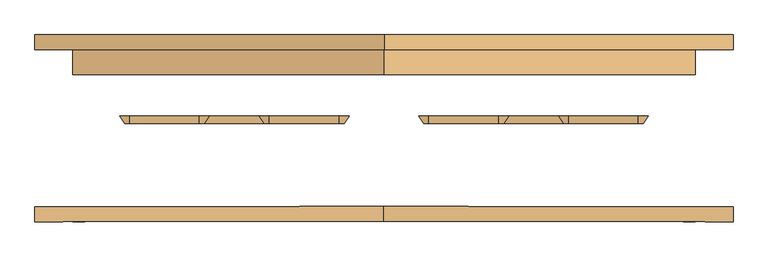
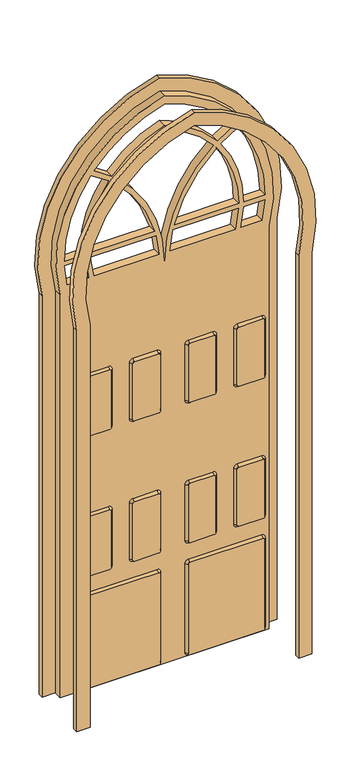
"""IFC4 building model written with IfcOpenShell, lengths in millimetres: door geometry, ETC Arabic Door : ETC Arabic Door."""

from ifc_helpers import new_model, si_unit, point, frame, frame_2d, origin, place, context, project, spatial, polyline, circle_curve, trimmed, segment, composite_curve, outline, extrude, source, transform, mapped, element, save
from ifc_brep_helpers import plane_surface, revolved_surface, advanced_brep


def door_c471d53b(model_context):
    return source(origin(), model_context, "Body", "SolidModel", [
        extrude(outline(composite_curve([segment(trimmed(circle_curve(frame_2d((2645.91897, 194.3801824)), 820.0), [point((3442.5470794, 0.0))], [point((2442.5470794, -600.0))], False, "CARTESIAN"), True, "CONTINUOUS"), segment(polyline([(2442.5470794, -600.0), (0.0, -600.0), (0.0, 600.0), (2442.5470794, 600.0)]), True, "CONTINUOUS"), segment(trimmed(circle_curve(frame_2d((2645.91897, -194.3801824)), 820.0), [point((2442.5470794, 600.0))], [point((3442.5470794, 0.0))], False, "CARTESIAN"), True, "CONTINUOUS")], self_intersect=False), holes=[composite_curve([segment(polyline([(2642.5470794, -455.6110717), (2642.5470794, -575.6124347)]), True, "CONTINUOUS"), segment(trimmed(circle_curve(frame_2d((2645.91897, 194.3801824)), 770.0), [point((2642.5470794, -575.6124347))], [point((3105.3836285, -423.5131964))], True, "CARTESIAN"), True, "CONTINUOUS"), segment(trimmed(circle_curve(frame_2d((2442.5470794, -785.0)), 755.0), [point((3105.3836285, -423.5131964))], [point((3039.5787259, -322.8547706))], True, "CARTESIAN"), True, "CONTINUOUS"), segment(trimmed(circle_curve(frame_2d((2645.91897, 194.3801824)), 650.0), [point((3039.5787259, -322.8547706))], [point((2642.5470794, -455.6110717))], False, "CARTESIAN"), True, "CONTINUOUS")], self_intersect=False), composite_curve([segment(trimmed(circle_curve(frame_2d((2442.5470794, -785.0)), 785.0), [point((3063.0279289, -304.1377375))], [point((3129.3939556, -404.9126829))], False, "CARTESIAN"), True, "CONTINUOUS"), segment(trimmed(circle_curve(frame_2d((2645.91897, 194.3801824)), 770.0), [point((3129.3939556, -404.9126829))], [point((3390.9802727, 0.0))], True, "CARTESIAN"), True, "CONTINUOUS"), segment(trimmed(circle_curve(frame_2d((2645.91897, -194.3801824)), 770.0), [point((3390.9802727, 0.0))], [point((3129.3939556, 404.9126829))], True, "CARTESIAN"), True, "CONTINUOUS"), segment(trimmed(circle_curve(frame_2d((2442.5470794, 785.0)), 785.0), [point((3129.3939556, 404.9126829))], [point((3063.0279289, 304.1377375))], False, "CARTESIAN"), True, "CONTINUOUS"), segment(trimmed(circle_curve(frame_2d((2645.91897, -194.3801824)), 650.0), [point((3063.0279289, 304.1377375))], [point((3266.1740342, 0.0))], False, "CARTESIAN"), True, "CONTINUOUS"), segment(trimmed(circle_curve(frame_2d((2645.91897, 194.3801824)), 650.0), [point((3266.1740342, 0.0))], [point((3063.0279289, -304.1377375))], False, "CARTESIAN"), True, "CONTINUOUS")], self_intersect=False), composite_curve([segment(polyline([(2612.5255477, -424.7117777), (2612.5255477, -49.3906867)]), True, "CONTINUOUS"), segment(trimmed(circle_curve(frame_2d((2442.5150435, -784.9999625)), 754.9997206), [point((2612.5255477, -49.3906867))], [point((2492.4716052, -31.6548091))], True, "CARTESIAN"), True, "CONTINUOUS"), segment(polyline([(2492.4716052, -31.6548091), (2492.4716052, -406.3292983)]), True, "CONTINUOUS"), segment(trimmed(circle_curve(frame_2d((2645.8872017, 194.3902565)), 620.0002651), [point((2492.4716052, -406.3292983))], [point((2612.5255477, -424.7117777))], True, "CARTESIAN"), True, "CONTINUOUS")], self_intersect=False), composite_curve([segment(polyline([(2642.5470794, -56.9718412), (2642.5470794, -425.6106485)]), True, "CONTINUOUS"), segment(trimmed(circle_curve(frame_2d((2645.91897, 194.3801824)), 620.0), [point((2642.5470794, -425.6106485))], [point((3020.7396834, -299.4916966))], True, "CARTESIAN"), True, "CONTINUOUS"), segment(trimmed(circle_curve(frame_2d((2442.5470794, -785.0)), 755.0), [point((3020.7396834, -299.4916966))], [point((2642.5470794, -56.9718412))], True, "CARTESIAN"), True, "CONTINUOUS")], self_intersect=False), composite_curve([segment(trimmed(circle_curve(frame_2d((2645.91897, 194.3801824)), 770.0), [point((2492.5470794, -560.1905984))], [point((2612.5470794, -574.8963069))], True, "CARTESIAN"), True, "CONTINUOUS"), segment(polyline([(2612.5470794, -574.8963069), (2612.5470794, -454.7625731)]), True, "CONTINUOUS"), segment(trimmed(circle_curve(frame_2d((2645.91897, 194.3801824)), 650.0), [point((2612.5470794, -454.7625731))], [point((2492.5470794, -437.2661294))], False, "CARTESIAN"), True, "CONTINUOUS"), segment(polyline([(2492.5470794, -437.2661294), (2492.5470794, -560.1905984)]), True, "CONTINUOUS")], self_intersect=False), composite_curve([segment(trimmed(circle_curve(frame_2d((2442.5470794, -785.0)), 785.0), [point((2442.5470794, 0.0))], [point((3044.2835155, -280.8787234))], False, "CARTESIAN"), True, "CONTINUOUS"), segment(trimmed(circle_curve(frame_2d((2646.0797802, 194.3398905)), 619.9991498), [point((3044.2835155, -280.8787234))], [point((3234.8335086, 0.0))], True, "CARTESIAN"), True, "CONTINUOUS"), segment(trimmed(circle_curve(frame_2d((2646.0797802, -194.3398905)), 619.9991498), [point((3234.8335086, 0.0))], [point((3044.2835155, 280.8787234))], True, "CARTESIAN"), True, "CONTINUOUS"), segment(trimmed(circle_curve(frame_2d((2442.5470794, 785.0)), 785.0), [point((3044.2835155, 280.8787234))], [point((2442.5470794, 0.0))], False, "CARTESIAN"), True, "CONTINUOUS")], self_intersect=False), composite_curve([segment(trimmed(circle_curve(frame_2d((2645.91897, -194.3801824)), 770.0), [point((3105.3836285, 423.5131964))], [point((2642.5470794, 575.6124347))], True, "CARTESIAN"), True, "CONTINUOUS"), segment(polyline([(2642.5470794, 575.6124347), (2642.5470794, 455.6110717)]), True, "CONTINUOUS"), segment(trimmed(circle_curve(frame_2d((2645.91897, -194.3801824)), 650.0), [point((2642.5470794, 455.6110717))], [point((3039.5787259, 322.8547706))], False, "CARTESIAN"), True, "CONTINUOUS"), segment(trimmed(circle_curve(frame_2d((2442.5470794, 785.0)), 755.0), [point((3039.5787259, 322.8547706))], [point((3105.3836285, 423.5131964))], True, "CARTESIAN"), True, "CONTINUOUS")], self_intersect=False), composite_curve([segment(trimmed(circle_curve(frame_2d((2442.5150435, 784.9999625)), 754.9997206), [point((2492.4716052, 31.6548091))], [point((2612.5255477, 49.3906867))], True, "CARTESIAN"), True, "CONTINUOUS"), segment(polyline([(2612.5255477, 49.3906867), (2612.5255477, 424.7117777)]), True, "CONTINUOUS"), segment(trimmed(circle_curve(frame_2d((2645.8872017, -194.3902565)), 620.0002651), [point((2612.5255477, 424.7117777))], [point((2492.4716052, 406.3292983))], True, "CARTESIAN"), True, "CONTINUOUS"), segment(polyline([(2492.4716052, 406.3292983), (2492.4716052, 31.6548091)]), True, "CONTINUOUS")], self_intersect=False), composite_curve([segment(trimmed(circle_curve(frame_2d((2645.91897, -194.3801824)), 620.0), [point((3020.7396834, 299.4916966))], [point((2642.5470794, 425.6106485))], True, "CARTESIAN"), True, "CONTINUOUS"), segment(polyline([(2642.5470794, 425.6106485), (2642.5470794, 56.9718412)]), True, "CONTINUOUS"), segment(trimmed(circle_curve(frame_2d((2442.5470794, 785.0)), 755.0), [point((2642.5470794, 56.9718412))], [point((3020.7396834, 299.4916966))], True, "CARTESIAN"), True, "CONTINUOUS")], self_intersect=False), composite_curve([segment(polyline([(2612.5470794, 454.7625731), (2612.5470794, 574.8963069)]), True, "CONTINUOUS"), segment(trimmed(circle_curve(frame_2d((2645.91897, -194.3801824)), 770.0), [point((2612.5470794, 574.8963069))], [point((2492.5470794, 560.1905984))], True, "CARTESIAN"), True, "CONTINUOUS"), segment(polyline([(2492.5470794, 560.1905984), (2492.5470794, 437.2661294)]), True, "CONTINUOUS"), segment(trimmed(circle_curve(frame_2d((2645.91897, -194.3801824)), 650.0), [point((2492.5470794, 437.2661294))], [point((2612.5470794, 454.7625731))], False, "CARTESIAN"), True, "CONTINUOUS")], self_intersect=False)]), frame((0.0, 107.5, 0.0), z_axis=(0.0, 1.0, 0.0), x_axis=(0.0, 0.0, 1.0)), (0.0, 0.0, 1.0), 50.0),
        extrude(outline(composite_curve([segment(trimmed(circle_curve(frame_2d((2645.91897, -194.3801824)), 895.0), [point((2433.3087668, 675.0))], [point((3519.5558195, 0.0))], False, "CARTESIAN"), True, "CONTINUOUS"), segment(trimmed(circle_curve(frame_2d((2645.91897, 194.3801824)), 895.0), [point((3519.5558195, 0.0))], [point((2433.3087668, -675.0))], False, "CARTESIAN"), True, "CONTINUOUS"), segment(polyline([(2433.3087668, -675.0), (0.0, -675.0), (0.0, -600.0), (2442.5470794, -600.0)]), True, "CONTINUOUS"), segment(trimmed(circle_curve(frame_2d((2645.91897, 194.3801824)), 820.0), [point((2442.5470794, -600.0))], [point((3442.5470794, 0.0))], True, "CARTESIAN"), True, "CONTINUOUS"), segment(trimmed(circle_curve(frame_2d((2645.91897, -194.3801824)), 820.0), [point((3442.5470794, 0.0))], [point((2442.5470794, 600.0))], True, "CARTESIAN"), True, "CONTINUOUS"), segment(polyline([(2442.5470794, 600.0), (0.0, 600.0), (0.0, 675.0), (2433.3087668, 675.0)]), True, "CONTINUOUS")], self_intersect=False)), frame((0.0, 157.5, 0.0), z_axis=(0.0, 1.0, 0.0), x_axis=(0.0, 0.0, 1.0)), (0.0, 0.0, 1.0), 30.0),
        extrude(outline(composite_curve([segment(polyline([(2433.3087668, -675.0), (0.0, -675.0), (0.0, -600.0), (2442.5470794, -600.0)]), True, "CONTINUOUS"), segment(trimmed(circle_curve(frame_2d((2645.91897, 194.3801824)), 820.0), [point((2442.5470794, -600.0))], [point((3442.5470794, 0.0))], True, "CARTESIAN"), True, "CONTINUOUS"), segment(trimmed(circle_curve(frame_2d((2645.91897, -194.3801824)), 820.0), [point((3442.5470794, 0.0))], [point((2442.5470794, 600.0))], True, "CARTESIAN"), True, "CONTINUOUS"), segment(polyline([(2442.5470794, 600.0), (0.0, 600.0), (0.0, 675.0), (2433.3087668, 675.0)]), True, "CONTINUOUS"), segment(trimmed(circle_curve(frame_2d((2645.91897, -194.3801824)), 895.0), [point((2433.3087668, 675.0))], [point((3519.5558195, 0.0))], False, "CARTESIAN"), True, "CONTINUOUS"), segment(trimmed(circle_curve(frame_2d((2645.91897, 194.3801824)), 895.0), [point((3519.5558195, 0.0))], [point((2433.3087668, -675.0))], False, "CARTESIAN"), True, "CONTINUOUS")], self_intersect=False)), frame((0.0, -187.5, 0.0), z_axis=(0.0, 1.0, 0.0), x_axis=(0.0, 0.0, 1.0)), (0.0, 0.0, 1.0), 30.0),
        advanced_brep(
        [(-90.0, 10.0, 1610.0), (-80.0, 10.0, 1620.0), (-80.0, 10.0, 1960.0), (-90.0, 10.0, 1970.0), (-230.0, 10.0, 1970.0), (-240.0, 10.0, 1960.0), (-240.0, 10.0, 1620.0), (-230.0, 10.0, 1610.0), (-90.0, 25.0, 1600.0), (-230.0, 25.0, 1600.0), (-250.0, 25.0, 1620.0), (-250.0, 25.0, 1960.0), (-230.0, 25.0, 1980.0), (-90.0, 25.0, 1980.0), (-70.0, 25.0, 1960.0), (-70.0, 25.0, 1620.0)],
        [
            (0, 1, circle_curve(frame((-90.0, 10.0, 1620.0), z_axis=(0.0, -1.0, 0.0), x_axis=(0.0, 0.0, -1.0)), 10.0)),
            (1, 2),
            (2, 3, circle_curve(frame((-90.0, 10.0, 1960.0), z_axis=(0.0, -1.0, 0.0), x_axis=(1.0, 0.0, 0.0)), 10.0)),
            (3, 4),
            (4, 5, circle_curve(frame((-230.0, 10.0, 1960.0), z_axis=(0.0, -1.0, 0.0), x_axis=(0.0, 0.0, 1.0)), 10.0)),
            (5, 6),
            (6, 7, circle_curve(frame((-230.0, 10.0, 1620.0), z_axis=(0.0, -1.0, 0.0), x_axis=(-1.0, 0.0, 0.0)), 10.0)),
            (7, 0),
            (8, 9),
            (9, 10, circle_curve(frame((-230.0, 25.0, 1620.0), z_axis=(0.0, 1.0, 0.0), x_axis=(-1.0, 0.0, 0.0)), 20.0)),
            (10, 11),
            (11, 12, circle_curve(frame((-230.0, 25.0, 1960.0), z_axis=(0.0, 1.0, 0.0), x_axis=(0.0, 0.0, 1.0)), 20.0)),
            (12, 13),
            (13, 14, circle_curve(frame((-90.0, 25.0, 1960.0), z_axis=(0.0, 1.0, 0.0), x_axis=(1.0, 0.0, 0.0)), 20.0)),
            (14, 15),
            (15, 8, circle_curve(frame((-90.0, 25.0, 1620.0), z_axis=(0.0, 1.0, 0.0), x_axis=(0.0, 0.0, -1.0)), 20.0)),
            (15, 1),
            (0, 8),
            (14, 2),
            (13, 3),
            (12, 4),
            (11, 5),
            (10, 6),
            (9, 7),
        ],
        [
            plane_surface(frame((-160.0, 10.0, 1790.0), z_axis=(0.0, -1.0, 0.0), x_axis=(-1.0, 0.0, 0.0))),
            plane_surface(frame((-160.0, 25.0, 1790.0), z_axis=(0.0, 1.0, 0.0), x_axis=(-1.0, 0.0, 0.0))),
            revolved_surface(polyline([(-90.0, 10.0, 1610.0), (-90.0, 25.0, 1600.0)]), (-90.0, -5.0, 1620.0), (0.0, 1.0, 0.0)),
            plane_surface(frame((-70.0, 25.0, 1790.0), z_axis=(0.8320502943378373, -0.5547001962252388, 0.0), x_axis=(0.0, 0.0, 1.0))),
            revolved_surface(polyline([(-80.0, 10.0, 1960.0), (-70.0, 25.0, 1960.0)]), (-90.0, -5.0, 1960.0), (0.0, 1.0, 0.0)),
            plane_surface(frame((-160.0, 25.0, 1980.0), z_axis=(0.0, -0.554700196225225, 0.8320502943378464), x_axis=(-1.0, 0.0, 0.0))),
            revolved_surface(polyline([(-230.0, 10.0, 1970.0), (-230.0, 25.0, 1980.0)]), (-230.0, -5.0, 1960.0), (0.0, 1.0, 0.0)),
            plane_surface(frame((-250.0, 25.0, 1790.0), z_axis=(-0.8320502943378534, -0.5547001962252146, 0.0), x_axis=(0.0, 0.0, -1.0))),
            revolved_surface(polyline([(-240.0, 10.0, 1620.0), (-250.0, 25.0, 1620.0)]), (-230.0, -5.0, 1620.0), (0.0, 1.0, 0.0)),
            plane_surface(frame((-160.0, 25.0, 1600.0), z_axis=(0.0, -0.554700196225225, -0.8320502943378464), x_axis=(1.0, 0.0, 0.0))),
        ],
        [
            (0, [[1, 2, 3, 4, 5, 6, 7, 8]]),
            (1, [[9, 10, 11, 12, 13, 14, 15, 16]]),
            (2, [[-16, 17, -1, 18]]),
            (3, [[-15, 19, -2, -17]]),
            (4, [[-14, 20, -3, -19]]),
            (5, [[-13, 21, -4, -20]]),
            (6, [[-12, 22, -5, -21]]),
            (7, [[-11, 23, -6, -22]]),
            (8, [[-10, 24, -7, -23]]),
            (9, [[-9, -18, -8, -24]]),
        ],
    ),
        advanced_brep(
        [(-370.0, 10.0, 1610.0), (-360.0, 10.0, 1620.0), (-360.0, 10.0, 1960.0), (-370.0, 10.0, 1970.0), (-510.0, 10.0, 1970.0), (-520.0, 10.0, 1960.0), (-520.0, 10.0, 1620.0), (-510.0, 10.0, 1610.0), (-370.0, 25.0, 1600.0), (-510.0, 25.0, 1600.0), (-530.0, 25.0, 1620.0), (-530.0, 25.0, 1960.0), (-510.0, 25.0, 1980.0), (-370.0, 25.0, 1980.0), (-350.0, 25.0, 1960.0), (-350.0, 25.0, 1620.0)],
        [
            (0, 1, circle_curve(frame((-370.0, 10.0, 1620.0), z_axis=(0.0, -1.0, 0.0), x_axis=(0.0, 0.0, -1.0)), 10.0)),
            (1, 2),
            (2, 3, circle_curve(frame((-370.0, 10.0, 1960.0), z_axis=(0.0, -1.0, 0.0), x_axis=(1.0, 0.0, 0.0)), 10.0)),
            (3, 4),
            (4, 5, circle_curve(frame((-510.0, 10.0, 1960.0), z_axis=(0.0, -1.0, 0.0), x_axis=(0.0, 0.0, 1.0)), 10.0)),
            (5, 6),
            (6, 7, circle_curve(frame((-510.0, 10.0, 1620.0), z_axis=(0.0, -1.0, 0.0), x_axis=(-1.0, 0.0, 0.0)), 10.0)),
            (7, 0),
            (8, 9),
            (9, 10, circle_curve(frame((-510.0, 25.0, 1620.0), z_axis=(0.0, 1.0, 0.0), x_axis=(-1.0, 0.0, 0.0)), 20.0)),
            (10, 11),
            (11, 12, circle_curve(frame((-510.0, 25.0, 1960.0), z_axis=(0.0, 1.0, 0.0), x_axis=(0.0, 0.0, 1.0)), 20.0)),
            (12, 13),
            (13, 14, circle_curve(frame((-370.0, 25.0, 1960.0), z_axis=(0.0, 1.0, 0.0), x_axis=(1.0, 0.0, 0.0)), 20.0)),
            (14, 15),
            (15, 8, circle_curve(frame((-370.0, 25.0, 1620.0), z_axis=(0.0, 1.0, 0.0), x_axis=(0.0, 0.0, -1.0)), 20.0)),
            (15, 1),
            (0, 8),
            (14, 2),
            (13, 3),
            (12, 4),
            (11, 5),
            (10, 6),
            (9, 7),
        ],
        [
            plane_surface(frame((-440.0, 10.0, 1790.0), z_axis=(0.0, -1.0, 0.0), x_axis=(-1.0, 0.0, 0.0))),
            plane_surface(frame((-440.0, 25.0, 1790.0), z_axis=(0.0, 1.0, 0.0), x_axis=(-1.0, 0.0, 0.0))),
            revolved_surface(polyline([(-370.0, 10.0, 1610.0), (-370.0, 25.0, 1600.0)]), (-370.0, -5.0, 1620.0), (0.0, 1.0, 0.0)),
            plane_surface(frame((-350.0, 25.0, 1790.0), z_axis=(0.8320502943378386, -0.5547001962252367, 0.0), x_axis=(0.0, 0.0, 1.0))),
            revolved_surface(polyline([(-360.0, 10.0, 1960.0), (-350.0, 25.0, 1960.0)]), (-370.0, -5.0, 1960.0), (0.0, 1.0, 0.0)),
            plane_surface(frame((-440.0, 25.0, 1980.0), z_axis=(0.0, -0.5547001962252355, 0.8320502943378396), x_axis=(-1.0, 0.0, 0.0))),
            revolved_surface(polyline([(-510.0, 10.0, 1970.0), (-510.0, 25.0, 1980.0)]), (-510.0, -5.0, 1960.0), (0.0, 1.0, 0.0)),
            plane_surface(frame((-530.0, 25.0, 1790.0), z_axis=(-0.8320502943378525, -0.5547001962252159, 0.0), x_axis=(0.0, 0.0, -1.0))),
            revolved_surface(polyline([(-520.0, 10.0, 1620.0), (-530.0, 25.0, 1620.0)]), (-510.0, -5.0, 1620.0), (0.0, 1.0, 0.0)),
            plane_surface(frame((-440.0, 25.0, 1600.0), z_axis=(0.0, -0.554700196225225, -0.8320502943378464), x_axis=(1.0, 0.0, 0.0))),
        ],
        [
            (0, [[1, 2, 3, 4, 5, 6, 7, 8]]),
            (1, [[9, 10, 11, 12, 13, 14, 15, 16]]),
            (2, [[-16, 17, -1, 18]]),
            (3, [[-15, 19, -2, -17]]),
            (4, [[-14, 20, -3, -19]]),
            (5, [[-13, 21, -4, -20]]),
            (6, [[-12, 22, -5, -21]]),
            (7, [[-11, 23, -6, -22]]),
            (8, [[-10, 24, -7, -23]]),
            (9, [[-9, -18, -8, -24]]),
        ],
    ),
        advanced_brep(
        [(-90.0, 10.0, 760.0), (-80.0, 10.0, 770.0), (-80.0, 10.0, 1110.0), (-90.0, 10.0, 1120.0), (-230.0, 10.0, 1120.0), (-240.0, 10.0, 1110.0), (-240.0, 10.0, 770.0), (-230.0, 10.0, 760.0), (-90.0, 25.0, 750.0), (-230.0, 25.0, 750.0), (-250.0, 25.0, 770.0), (-250.0, 25.0, 1110.0), (-230.0, 25.0, 1130.0), (-90.0, 25.0, 1130.0), (-70.0, 25.0, 1110.0), (-70.0, 25.0, 770.0)],
        [
            (0, 1, circle_curve(frame((-90.0, 10.0, 770.0), z_axis=(0.0, -1.0, 0.0), x_axis=(0.0, 0.0, -1.0)), 10.0)),
            (1, 2),
            (2, 3, circle_curve(frame((-90.0, 10.0, 1110.0), z_axis=(0.0, -1.0, 0.0), x_axis=(1.0, 0.0, 0.0)), 10.0)),
            (3, 4),
            (4, 5, circle_curve(frame((-230.0, 10.0, 1110.0), z_axis=(0.0, -1.0, 0.0), x_axis=(0.0, 0.0, 1.0)), 10.0)),
            (5, 6),
            (6, 7, circle_curve(frame((-230.0, 10.0, 770.0), z_axis=(0.0, -1.0, 0.0), x_axis=(-1.0, 0.0, 0.0)), 10.0)),
            (7, 0),
            (8, 9),
            (9, 10, circle_curve(frame((-230.0, 25.0, 770.0), z_axis=(0.0, 1.0, 0.0), x_axis=(-1.0, 0.0, 0.0)), 20.0)),
            (10, 11),
            (11, 12, circle_curve(frame((-230.0, 25.0, 1110.0), z_axis=(0.0, 1.0, 0.0), x_axis=(0.0, 0.0, 1.0)), 20.0)),
            (12, 13),
            (13, 14, circle_curve(frame((-90.0, 25.0, 1110.0), z_axis=(0.0, 1.0, 0.0), x_axis=(1.0, 0.0, 0.0)), 20.0)),
            (14, 15),
            (15, 8, circle_curve(frame((-90.0, 25.0, 770.0), z_axis=(0.0, 1.0, 0.0), x_axis=(0.0, 0.0, -1.0)), 20.0)),
            (15, 1),
            (0, 8),
            (14, 2),
            (13, 3),
            (12, 4),
            (11, 5),
            (10, 6),
            (9, 7),
        ],
        [
            plane_surface(frame((-160.0, 10.0, 940.0), z_axis=(0.0, -1.0, 0.0), x_axis=(-1.0, 0.0, 0.0))),
            plane_surface(frame((-160.0, 25.0, 940.0), z_axis=(0.0, 1.0, 0.0), x_axis=(-1.0, 0.0, 0.0))),
            revolved_surface(polyline([(-90.0, 10.0, 760.0), (-90.0, 25.0, 750.0)]), (-90.0, -5.0, 770.0), (0.0, 1.0, 0.0)),
            plane_surface(frame((-70.0, 25.0, 940.0), z_axis=(0.8320502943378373, -0.5547001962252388, 0.0), x_axis=(0.0, 0.0, 1.0))),
            revolved_surface(polyline([(-80.0, 10.0, 1110.0), (-70.0, 25.0, 1110.0)]), (-90.0, -5.0, 1110.0), (0.0, 1.0, 0.0)),
            plane_surface(frame((-160.0, 25.0, 1130.0), z_axis=(0.0, -0.5547001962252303, 0.832050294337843), x_axis=(-1.0, 0.0, 0.0))),
            revolved_surface(polyline([(-230.0, 10.0, 1120.0), (-230.0, 25.0, 1130.0)]), (-230.0, -5.0, 1110.0), (0.0, 1.0, 0.0)),
            plane_surface(frame((-250.0, 25.0, 940.0), z_axis=(-0.8320502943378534, -0.5547001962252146, 0.0), x_axis=(0.0, 0.0, -1.0))),
            revolved_surface(polyline([(-240.0, 10.0, 770.0), (-250.0, 25.0, 770.0)]), (-230.0, -5.0, 770.0), (0.0, 1.0, 0.0)),
            plane_surface(frame((-160.0, 25.0, 750.0), z_axis=(0.0, -0.5547001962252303, -0.832050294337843), x_axis=(1.0, 0.0, 0.0))),
        ],
        [
            (0, [[1, 2, 3, 4, 5, 6, 7, 8]]),
            (1, [[9, 10, 11, 12, 13, 14, 15, 16]]),
            (2, [[-16, 17, -1, 18]]),
            (3, [[-15, 19, -2, -17]]),
            (4, [[-14, 20, -3, -19]]),
            (5, [[-13, 21, -4, -20]]),
            (6, [[-12, 22, -5, -21]]),
            (7, [[-11, 23, -6, -22]]),
            (8, [[-10, 24, -7, -23]]),
            (9, [[-9, -18, -8, -24]]),
        ],
    ),
        advanced_brep(
        [(-370.0, 10.0, 760.0), (-360.0, 10.0, 770.0), (-360.0, 10.0, 1110.0), (-370.0, 10.0, 1120.0), (-510.0, 10.0, 1120.0), (-520.0, 10.0, 1110.0), (-520.0, 10.0, 770.0), (-510.0, 10.0, 760.0), (-370.0, 25.0, 750.0), (-510.0, 25.0, 750.0), (-530.0, 25.0, 770.0), (-530.0, 25.0, 1110.0), (-510.0, 25.0, 1130.0), (-370.0, 25.0, 1130.0), (-350.0, 25.0, 1110.0), (-350.0, 25.0, 770.0)],
        [
            (0, 1, circle_curve(frame((-370.0, 10.0, 770.0), z_axis=(0.0, -1.0, 0.0), x_axis=(0.0, 0.0, -1.0)), 10.0)),
            (1, 2),
            (2, 3, circle_curve(frame((-370.0, 10.0, 1110.0), z_axis=(0.0, -1.0, 0.0), x_axis=(1.0, 0.0, 0.0)), 10.0)),
            (3, 4),
            (4, 5, circle_curve(frame((-510.0, 10.0, 1110.0), z_axis=(0.0, -1.0, 0.0), x_axis=(0.0, 0.0, 1.0)), 10.0)),
            (5, 6),
            (6, 7, circle_curve(frame((-510.0, 10.0, 770.0), z_axis=(0.0, -1.0, 0.0), x_axis=(-1.0, 0.0, 0.0)), 10.0)),
            (7, 0),
            (8, 9),
            (9, 10, circle_curve(frame((-510.0, 25.0, 770.0), z_axis=(0.0, 1.0, 0.0), x_axis=(-1.0, 0.0, 0.0)), 20.0)),
            (10, 11),
            (11, 12, circle_curve(frame((-510.0, 25.0, 1110.0), z_axis=(0.0, 1.0, 0.0), x_axis=(0.0, 0.0, 1.0)), 20.0)),
            (12, 13),
            (13, 14, circle_curve(frame((-370.0, 25.0, 1110.0), z_axis=(0.0, 1.0, 0.0), x_axis=(1.0, 0.0, 0.0)), 20.0)),
            (14, 15),
            (15, 8, circle_curve(frame((-370.0, 25.0, 770.0), z_axis=(0.0, 1.0, 0.0), x_axis=(0.0, 0.0, -1.0)), 20.0)),
            (15, 1),
            (0, 8),
            (14, 2),
            (13, 3),
            (12, 4),
            (11, 5),
            (10, 6),
            (9, 7),
        ],
        [
            plane_surface(frame((-440.0, 10.0, 940.0), z_axis=(0.0, -1.0, 0.0), x_axis=(-1.0, 0.0, 0.0))),
            plane_surface(frame((-440.0, 25.0, 940.0), z_axis=(0.0, 1.0, 0.0), x_axis=(-1.0, 0.0, 0.0))),
            revolved_surface(polyline([(-370.0, 10.0, 760.0), (-370.0, 25.0, 750.0)]), (-370.0, -5.0, 770.0), (0.0, 1.0, 0.0)),
            plane_surface(frame((-350.0, 25.0, 940.0), z_axis=(0.8320502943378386, -0.5547001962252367, 0.0), x_axis=(0.0, 0.0, 1.0))),
            revolved_surface(polyline([(-360.0, 10.0, 1110.0), (-350.0, 25.0, 1110.0)]), (-370.0, -5.0, 1110.0), (0.0, 1.0, 0.0)),
            plane_surface(frame((-440.0, 25.0, 1130.0), z_axis=(0.0, -0.5547001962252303, 0.832050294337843), x_axis=(-1.0, 0.0, 0.0))),
            revolved_surface(polyline([(-510.0, 10.0, 1120.0), (-510.0, 25.0, 1130.0)]), (-510.0, -5.0, 1110.0), (0.0, 1.0, 0.0)),
            plane_surface(frame((-530.0, 25.0, 940.0), z_axis=(-0.8320502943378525, -0.5547001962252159, 0.0), x_axis=(0.0, 0.0, -1.0))),
            revolved_surface(polyline([(-520.0, 10.0, 770.0), (-530.0, 25.0, 770.0)]), (-510.0, -5.0, 770.0), (0.0, 1.0, 0.0)),
            plane_surface(frame((-440.0, 25.0, 750.0), z_axis=(0.0, -0.5547001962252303, -0.832050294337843), x_axis=(1.0, 0.0, 0.0))),
        ],
        [
            (0, [[1, 2, 3, 4, 5, 6, 7, 8]]),
            (1, [[9, 10, 11, 12, 13, 14, 15, 16]]),
            (2, [[-16, 17, -1, 18]]),
            (3, [[-15, 19, -2, -17]]),
            (4, [[-14, 20, -3, -19]]),
            (5, [[-13, 21, -4, -20]]),
            (6, [[-12, 22, -5, -21]]),
            (7, [[-11, 23, -6, -22]]),
            (8, [[-10, 24, -7, -23]]),
            (9, [[-9, -18, -8, -24]]),
        ],
    ),
        advanced_brep(
        [(90.0, 10.0, 1610.0), (230.0, 10.0, 1610.0), (240.0, 10.0, 1620.0), (240.0, 10.0, 1960.0), (230.0, 10.0, 1970.0), (90.0, 10.0, 1970.0), (80.0, 10.0, 1960.0), (80.0, 10.0, 1620.0), (90.0, 25.0, 1600.0), (70.0, 25.0, 1620.0), (70.0, 25.0, 1960.0), (90.0, 25.0, 1980.0), (230.0, 25.0, 1980.0), (250.0, 25.0, 1960.0), (250.0, 25.0, 1620.0), (230.0, 25.0, 1600.0)],
        [
            (0, 1),
            (1, 2, circle_curve(frame((230.0, 10.0, 1620.0), z_axis=(0.0, -1.0, 0.0), x_axis=(0.0, 0.0, -1.0)), 10.0)),
            (2, 3),
            (3, 4, circle_curve(frame((230.0, 10.0, 1960.0), z_axis=(0.0, -1.0, 0.0), x_axis=(1.0, 0.0, 0.0)), 10.0)),
            (4, 5),
            (5, 6, circle_curve(frame((90.0, 10.0, 1960.0), z_axis=(0.0, -1.0, 0.0), x_axis=(0.0, 0.0, 1.0)), 10.0)),
            (6, 7),
            (7, 0, circle_curve(frame((90.0, 10.0, 1620.0), z_axis=(0.0, -1.0, 0.0), x_axis=(-1.0, 0.0, 0.0)), 10.0)),
            (8, 9, circle_curve(frame((90.0, 25.0, 1620.0), z_axis=(0.0, 1.0, 0.0), x_axis=(-1.0, 0.0, 0.0)), 20.0)),
            (9, 10),
            (10, 11, circle_curve(frame((90.0, 25.0, 1960.0), z_axis=(0.0, 1.0, 0.0), x_axis=(0.0, 0.0, 1.0)), 20.0)),
            (11, 12),
            (12, 13, circle_curve(frame((230.0, 25.0, 1960.0), z_axis=(0.0, 1.0, 0.0), x_axis=(1.0, 0.0, 0.0)), 20.0)),
            (13, 14),
            (14, 15, circle_curve(frame((230.0, 25.0, 1620.0), z_axis=(0.0, 1.0, 0.0), x_axis=(0.0, 0.0, -1.0)), 20.0)),
            (15, 8),
            (15, 1),
            (0, 8),
            (14, 2),
            (13, 3),
            (12, 4),
            (11, 5),
            (10, 6),
            (9, 7),
        ],
        [
            plane_surface(frame((160.0, 10.0, 1790.0), z_axis=(0.0, -1.0, 0.0), x_axis=(-1.0, 0.0, 0.0))),
            plane_surface(frame((160.0, 25.0, 1790.0), z_axis=(0.0, 1.0, 0.0), x_axis=(-1.0, 0.0, 0.0))),
            plane_surface(frame((160.0, 25.0, 1600.0), z_axis=(0.0, -0.554700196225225, -0.8320502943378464), x_axis=(1.0, 0.0, 0.0))),
            revolved_surface(polyline([(230.0, 10.0, 1610.0), (230.0, 25.0, 1600.0)]), (230.0, -5.0, 1620.0), (0.0, 1.0, 0.0)),
            plane_surface(frame((250.0, 25.0, 1790.0), z_axis=(0.8320502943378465, -0.554700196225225, 0.0), x_axis=(0.0, 0.0, 1.0))),
            revolved_surface(polyline([(240.0, 10.0, 1960.0), (250.0, 25.0, 1960.0)]), (230.0, -5.0, 1960.0), (0.0, 1.0, 0.0)),
            plane_surface(frame((160.0, 25.0, 1980.0), z_axis=(0.0, -0.554700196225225, 0.8320502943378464), x_axis=(-1.0, 0.0, 0.0))),
            revolved_surface(polyline([(90.0, 10.0, 1970.0), (90.0, 25.0, 1980.0)]), (90.0, -5.0, 1960.0), (0.0, 1.0, 0.0)),
            plane_surface(frame((70.0, 25.0, 1790.0), z_axis=(-0.832050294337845, -0.5547001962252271, 0.0), x_axis=(0.0, 0.0, -1.0))),
            revolved_surface(polyline([(80.0, 10.0, 1620.0), (70.0, 25.0, 1620.0)]), (90.0, -5.0, 1620.0), (0.0, 1.0, 0.0)),
        ],
        [
            (0, [[1, 2, 3, 4, 5, 6, 7, 8]]),
            (1, [[9, 10, 11, 12, 13, 14, 15, 16]]),
            (2, [[-16, 17, -1, 18]]),
            (3, [[-15, 19, -2, -17]]),
            (4, [[-14, 20, -3, -19]]),
            (5, [[-13, 21, -4, -20]]),
            (6, [[-12, 22, -5, -21]]),
            (7, [[-11, 23, -6, -22]]),
            (8, [[-10, 24, -7, -23]]),
            (9, [[-9, -18, -8, -24]]),
        ],
    ),
        advanced_brep(
        [(370.0, 10.0, 1610.0), (510.0, 10.0, 1610.0), (520.0, 10.0, 1620.0), (520.0, 10.0, 1960.0), (510.0, 10.0, 1970.0), (370.0, 10.0, 1970.0), (360.0, 10.0, 1960.0), (360.0, 10.0, 1620.0), (370.0, 25.0, 1600.0), (350.0, 25.0, 1620.0), (350.0, 25.0, 1960.0), (370.0, 25.0, 1980.0), (510.0, 25.0, 1980.0), (530.0, 25.0, 1960.0), (530.0, 25.0, 1620.0), (510.0, 25.0, 1600.0)],
        [
            (0, 1),
            (1, 2, circle_curve(frame((510.0, 10.0, 1620.0), z_axis=(0.0, -1.0, 0.0), x_axis=(0.0, 0.0, -1.0)), 10.0)),
            (2, 3),
            (3, 4, circle_curve(frame((510.0, 10.0, 1960.0), z_axis=(0.0, -1.0, 0.0), x_axis=(1.0, 0.0, 0.0)), 10.0)),
            (4, 5),
            (5, 6, circle_curve(frame((370.0, 10.0, 1960.0), z_axis=(0.0, -1.0, 0.0), x_axis=(0.0, 0.0, 1.0)), 10.0)),
            (6, 7),
            (7, 0, circle_curve(frame((370.0, 10.0, 1620.0), z_axis=(0.0, -1.0, 0.0), x_axis=(-1.0, 0.0, 0.0)), 10.0)),
            (8, 9, circle_curve(frame((370.0, 25.0, 1620.0), z_axis=(0.0, 1.0, 0.0), x_axis=(-1.0, 0.0, 0.0)), 20.0)),
            (9, 10),
            (10, 11, circle_curve(frame((370.0, 25.0, 1960.0), z_axis=(0.0, 1.0, 0.0), x_axis=(0.0, 0.0, 1.0)), 20.0)),
            (11, 12),
            (12, 13, circle_curve(frame((510.0, 25.0, 1960.0), z_axis=(0.0, 1.0, 0.0), x_axis=(1.0, 0.0, 0.0)), 20.0)),
            (13, 14),
            (14, 15, circle_curve(frame((510.0, 25.0, 1620.0), z_axis=(0.0, 1.0, 0.0), x_axis=(0.0, 0.0, -1.0)), 20.0)),
            (15, 8),
            (15, 1),
            (0, 8),
            (14, 2),
            (13, 3),
            (12, 4),
            (11, 5),
            (10, 6),
            (9, 7),
        ],
        [
            plane_surface(frame((440.0, 10.0, 1790.0), z_axis=(0.0, -1.0, 0.0), x_axis=(-1.0, 0.0, 0.0))),
            plane_surface(frame((440.0, 25.0, 1790.0), z_axis=(0.0, 1.0, 0.0), x_axis=(-1.0, 0.0, 0.0))),
            plane_surface(frame((440.0, 25.0, 1600.0), z_axis=(0.0, -0.554700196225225, -0.8320502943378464), x_axis=(1.0, 0.0, 0.0))),
            revolved_surface(polyline([(510.0, 10.0, 1610.0), (510.0, 25.0, 1600.0)]), (510.0, -5.0, 1620.0), (0.0, 1.0, 0.0)),
            plane_surface(frame((530.0, 25.0, 1790.0), z_axis=(0.8320502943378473, -0.5547001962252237, 0.0), x_axis=(0.0, 0.0, 1.0))),
            revolved_surface(polyline([(520.0, 10.0, 1960.0), (530.0, 25.0, 1960.0)]), (510.0, -5.0, 1960.0), (0.0, 1.0, 0.0)),
            plane_surface(frame((440.0, 25.0, 1980.0), z_axis=(0.0, -0.5547001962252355, 0.8320502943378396), x_axis=(-1.0, 0.0, 0.0))),
            revolved_surface(polyline([(370.0, 10.0, 1970.0), (370.0, 25.0, 1980.0)]), (370.0, -5.0, 1960.0), (0.0, 1.0, 0.0)),
            plane_surface(frame((350.0, 25.0, 1790.0), z_axis=(-0.8320502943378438, -0.5547001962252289, 0.0), x_axis=(0.0, 0.0, -1.0))),
            revolved_surface(polyline([(360.0, 10.0, 1620.0), (350.0, 25.0, 1620.0)]), (370.0, -5.0, 1620.0), (0.0, 1.0, 0.0)),
        ],
        [
            (0, [[1, 2, 3, 4, 5, 6, 7, 8]]),
            (1, [[9, 10, 11, 12, 13, 14, 15, 16]]),
            (2, [[-16, 17, -1, 18]]),
            (3, [[-15, 19, -2, -17]]),
            (4, [[-14, 20, -3, -19]]),
            (5, [[-13, 21, -4, -20]]),
            (6, [[-12, 22, -5, -21]]),
            (7, [[-11, 23, -6, -22]]),
            (8, [[-10, 24, -7, -23]]),
            (9, [[-9, -18, -8, -24]]),
        ],
    ),
        advanced_brep(
        [(90.0, 10.0, 760.0), (230.0, 10.0, 760.0), (240.0, 10.0, 770.0), (240.0, 10.0, 1110.0), (230.0, 10.0, 1120.0), (90.0, 10.0, 1120.0), (80.0, 10.0, 1110.0), (80.0, 10.0, 770.0), (90.0, 25.0, 750.0), (70.0, 25.0, 770.0), (70.0, 25.0, 1110.0), (90.0, 25.0, 1130.0), (230.0, 25.0, 1130.0), (250.0, 25.0, 1110.0), (250.0, 25.0, 770.0), (230.0, 25.0, 750.0)],
        [
            (0, 1),
            (1, 2, circle_curve(frame((230.0, 10.0, 770.0), z_axis=(0.0, -1.0, 0.0), x_axis=(0.0, 0.0, -1.0)), 10.0)),
            (2, 3),
            (3, 4, circle_curve(frame((230.0, 10.0, 1110.0), z_axis=(0.0, -1.0, 0.0), x_axis=(1.0, 0.0, 0.0)), 10.0)),
            (4, 5),
            (5, 6, circle_curve(frame((90.0, 10.0, 1110.0), z_axis=(0.0, -1.0, 0.0), x_axis=(0.0, 0.0, 1.0)), 10.0)),
            (6, 7),
            (7, 0, circle_curve(frame((90.0, 10.0, 770.0), z_axis=(0.0, -1.0, 0.0), x_axis=(-1.0, 0.0, 0.0)), 10.0)),
            (8, 9, circle_curve(frame((90.0, 25.0, 770.0), z_axis=(0.0, 1.0, 0.0), x_axis=(-1.0, 0.0, 0.0)), 20.0)),
            (9, 10),
            (10, 11, circle_curve(frame((90.0, 25.0, 1110.0), z_axis=(0.0, 1.0, 0.0), x_axis=(0.0, 0.0, 1.0)), 20.0)),
            (11, 12),
            (12, 13, circle_curve(frame((230.0, 25.0, 1110.0), z_axis=(0.0, 1.0, 0.0), x_axis=(1.0, 0.0, 0.0)), 20.0)),
            (13, 14),
            (14, 15, circle_curve(frame((230.0, 25.0, 770.0), z_axis=(0.0, 1.0, 0.0), x_axis=(0.0, 0.0, -1.0)), 20.0)),
            (15, 8),
            (15, 1),
            (0, 8),
            (14, 2),
            (13, 3),
            (12, 4),
            (11, 5),
            (10, 6),
            (9, 7),
        ],
        [
            plane_surface(frame((160.0, 10.0, 940.0), z_axis=(0.0, -1.0, 0.0), x_axis=(-1.0, 0.0, 0.0))),
            plane_surface(frame((160.0, 25.0, 940.0), z_axis=(0.0, 1.0, 0.0), x_axis=(-1.0, 0.0, 0.0))),
            plane_surface(frame((160.0, 25.0, 750.0), z_axis=(0.0, -0.5547001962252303, -0.832050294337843), x_axis=(1.0, 0.0, 0.0))),
            revolved_surface(polyline([(230.0, 10.0, 760.0), (230.0, 25.0, 750.0)]), (230.0, -5.0, 770.0), (0.0, 1.0, 0.0)),
            plane_surface(frame((250.0, 25.0, 940.0), z_axis=(0.8320502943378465, -0.554700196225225, 0.0), x_axis=(0.0, 0.0, 1.0))),
            revolved_surface(polyline([(240.0, 10.0, 1110.0), (250.0, 25.0, 1110.0)]), (230.0, -5.0, 1110.0), (0.0, 1.0, 0.0)),
            plane_surface(frame((160.0, 25.0, 1130.0), z_axis=(0.0, -0.5547001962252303, 0.832050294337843), x_axis=(-1.0, 0.0, 0.0))),
            revolved_surface(polyline([(90.0, 10.0, 1120.0), (90.0, 25.0, 1130.0)]), (90.0, -5.0, 1110.0), (0.0, 1.0, 0.0)),
            plane_surface(frame((70.0, 25.0, 940.0), z_axis=(-0.832050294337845, -0.5547001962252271, 0.0), x_axis=(0.0, 0.0, -1.0))),
            revolved_surface(polyline([(80.0, 10.0, 770.0), (70.0, 25.0, 770.0)]), (90.0, -5.0, 770.0), (0.0, 1.0, 0.0)),
        ],
        [
            (0, [[1, 2, 3, 4, 5, 6, 7, 8]]),
            (1, [[9, 10, 11, 12, 13, 14, 15, 16]]),
            (2, [[-16, 17, -1, 18]]),
            (3, [[-15, 19, -2, -17]]),
            (4, [[-14, 20, -3, -19]]),
            (5, [[-13, 21, -4, -20]]),
            (6, [[-12, 22, -5, -21]]),
            (7, [[-11, 23, -6, -22]]),
            (8, [[-10, 24, -7, -23]]),
            (9, [[-9, -18, -8, -24]]),
        ],
    ),
        advanced_brep(
        [(370.0, 10.0, 760.0), (510.0, 10.0, 760.0), (520.0, 10.0, 770.0), (520.0, 10.0, 1110.0), (510.0, 10.0, 1120.0), (370.0, 10.0, 1120.0), (360.0, 10.0, 1110.0), (360.0, 10.0, 770.0), (370.0, 25.0, 750.0), (350.0, 25.0, 770.0), (350.0, 25.0, 1110.0), (370.0, 25.0, 1130.0), (510.0, 25.0, 1130.0), (530.0, 25.0, 1110.0), (530.0, 25.0, 770.0), (510.0, 25.0, 750.0)],
        [
            (0, 1),
            (1, 2, circle_curve(frame((510.0, 10.0, 770.0), z_axis=(0.0, -1.0, 0.0), x_axis=(0.0, 0.0, -1.0)), 10.0)),
            (2, 3),
            (3, 4, circle_curve(frame((510.0, 10.0, 1110.0), z_axis=(0.0, -1.0, 0.0), x_axis=(1.0, 0.0, 0.0)), 10.0)),
            (4, 5),
            (5, 6, circle_curve(frame((370.0, 10.0, 1110.0), z_axis=(0.0, -1.0, 0.0), x_axis=(0.0, 0.0, 1.0)), 10.0)),
            (6, 7),
            (7, 0, circle_curve(frame((370.0, 10.0, 770.0), z_axis=(0.0, -1.0, 0.0), x_axis=(-1.0, 0.0, 0.0)), 10.0)),
            (8, 9, circle_curve(frame((370.0, 25.0, 770.0), z_axis=(0.0, 1.0, 0.0), x_axis=(-1.0, 0.0, 0.0)), 20.0)),
            (9, 10),
            (10, 11, circle_curve(frame((370.0, 25.0, 1110.0), z_axis=(0.0, 1.0, 0.0), x_axis=(0.0, 0.0, 1.0)), 20.0)),
            (11, 12),
            (12, 13, circle_curve(frame((510.0, 25.0, 1110.0), z_axis=(0.0, 1.0, 0.0), x_axis=(1.0, 0.0, 0.0)), 20.0)),
            (13, 14),
            (14, 15, circle_curve(frame((510.0, 25.0, 770.0), z_axis=(0.0, 1.0, 0.0), x_axis=(0.0, 0.0, -1.0)), 20.0)),
            (15, 8),
            (15, 1),
            (0, 8),
            (14, 2),
            (13, 3),
            (12, 4),
            (11, 5),
            (10, 6),
            (9, 7),
        ],
        [
            plane_surface(frame((440.0, 10.0, 940.0), z_axis=(0.0, -1.0, 0.0), x_axis=(-1.0, 0.0, 0.0))),
            plane_surface(frame((440.0, 25.0, 940.0), z_axis=(0.0, 1.0, 0.0), x_axis=(-1.0, 0.0, 0.0))),
            plane_surface(frame((440.0, 25.0, 750.0), z_axis=(0.0, -0.5547001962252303, -0.832050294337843), x_axis=(1.0, 0.0, 0.0))),
            revolved_surface(polyline([(510.0, 10.0, 760.0), (510.0, 25.0, 750.0)]), (510.0, -5.0, 770.0), (0.0, 1.0, 0.0)),
            plane_surface(frame((530.0, 25.0, 940.0), z_axis=(0.8320502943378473, -0.5547001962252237, 0.0), x_axis=(0.0, 0.0, 1.0))),
            revolved_surface(polyline([(520.0, 10.0, 1110.0), (530.0, 25.0, 1110.0)]), (510.0, -5.0, 1110.0), (0.0, 1.0, 0.0)),
            plane_surface(frame((440.0, 25.0, 1130.0), z_axis=(0.0, -0.5547001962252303, 0.832050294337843), x_axis=(-1.0, 0.0, 0.0))),
            revolved_surface(polyline([(370.0, 10.0, 1120.0), (370.0, 25.0, 1130.0)]), (370.0, -5.0, 1110.0), (0.0, 1.0, 0.0)),
            plane_surface(frame((350.0, 25.0, 940.0), z_axis=(-0.8320502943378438, -0.5547001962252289, 0.0), x_axis=(0.0, 0.0, -1.0))),
            revolved_surface(polyline([(360.0, 10.0, 770.0), (350.0, 25.0, 770.0)]), (370.0, -5.0, 770.0), (0.0, 1.0, 0.0)),
        ],
        [
            (0, [[1, 2, 3, 4, 5, 6, 7, 8]]),
            (1, [[9, 10, 11, 12, 13, 14, 15, 16]]),
            (2, [[-16, 17, -1, 18]]),
            (3, [[-15, 19, -2, -17]]),
            (4, [[-14, 20, -3, -19]]),
            (5, [[-13, 21, -4, -20]]),
            (6, [[-12, 22, -5, -21]]),
            (7, [[-11, 23, -6, -22]]),
            (8, [[-10, 24, -7, -23]]),
            (9, [[-9, -18, -8, -24]]),
        ],
    ),
        advanced_brep(
        [(-90.0, 10.0, 80.0), (-80.0, 10.0, 90.0), (-80.0, 10.0, 630.0), (-90.0, 10.0, 640.0), (-510.0, 10.0, 640.0), (-520.0, 10.0, 630.0), (-520.0, 10.0, 90.0), (-510.0, 10.0, 80.0), (-90.0, 25.0, 70.0), (-510.0, 25.0, 70.0), (-530.0, 25.0, 90.0), (-530.0, 25.0, 630.0), (-510.0, 25.0, 650.0), (-90.0, 25.0, 650.0), (-70.0, 25.0, 630.0), (-70.0, 25.0, 90.0)],
        [
            (0, 1, circle_curve(frame((-90.0, 10.0, 90.0), z_axis=(0.0, -1.0, 0.0), x_axis=(0.0, 0.0, -1.0)), 10.0)),
            (1, 2),
            (2, 3, circle_curve(frame((-90.0, 10.0, 630.0), z_axis=(0.0, -1.0, 0.0), x_axis=(1.0, 0.0, 0.0)), 10.0)),
            (3, 4),
            (4, 5, circle_curve(frame((-510.0, 10.0, 630.0), z_axis=(0.0, -1.0, 0.0), x_axis=(0.0, 0.0, 1.0)), 10.0)),
            (5, 6),
            (6, 7, circle_curve(frame((-510.0, 10.0, 90.0), z_axis=(0.0, -1.0, 0.0), x_axis=(-1.0, 0.0, 0.0)), 10.0)),
            (7, 0),
            (8, 9),
            (9, 10, circle_curve(frame((-510.0, 25.0, 90.0), z_axis=(0.0, 1.0, 0.0), x_axis=(-1.0, 0.0, 0.0)), 20.0)),
            (10, 11),
            (11, 12, circle_curve(frame((-510.0, 25.0, 630.0), z_axis=(0.0, 1.0, 0.0), x_axis=(0.0, 0.0, 1.0)), 20.0)),
            (12, 13),
            (13, 14, circle_curve(frame((-90.0, 25.0, 630.0), z_axis=(0.0, 1.0, 0.0), x_axis=(1.0, 0.0, 0.0)), 20.0)),
            (14, 15),
            (15, 8, circle_curve(frame((-90.0, 25.0, 90.0), z_axis=(0.0, 1.0, 0.0), x_axis=(0.0, 0.0, -1.0)), 20.0)),
            (15, 1),
            (0, 8),
            (14, 2),
            (13, 3),
            (12, 4),
            (11, 5),
            (10, 6),
            (9, 7),
        ],
        [
            plane_surface(frame((-300.0, 10.0, 360.0), z_axis=(0.0, -1.0, 0.0), x_axis=(-1.0, 0.0, 0.0))),
            plane_surface(frame((-300.0, 25.0, 360.0), z_axis=(0.0, 1.0, 0.0), x_axis=(-1.0, 0.0, 0.0))),
            revolved_surface(polyline([(-90.0, 10.0, 80.0), (-90.0, 25.0, 70.0)]), (-90.0, -5.0, 90.0), (0.0, 1.0, 0.0)),
            plane_surface(frame((-70.0, 25.0, 360.0), z_axis=(0.8320502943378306, -0.5547001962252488, 0.0), x_axis=(0.0, 0.0, 1.0))),
            revolved_surface(polyline([(-80.0, 10.0, 630.0), (-70.0, 25.0, 630.0)]), (-90.0, -5.0, 630.0), (0.0, 1.0, 0.0)),
            plane_surface(frame((-300.0, 25.0, 650.0), z_axis=(0.0, -0.5547001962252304, 0.8320502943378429), x_axis=(-1.0, 0.0, 0.0))),
            revolved_surface(polyline([(-510.0, 10.0, 640.0), (-510.0, 25.0, 650.0)]), (-510.0, -5.0, 630.0), (0.0, 1.0, 0.0)),
            plane_surface(frame((-530.0, 25.0, 360.0), z_axis=(-0.8320502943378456, -0.5547001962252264, 0.0), x_axis=(0.0, 0.0, -1.0))),
            revolved_surface(polyline([(-520.0, 10.0, 90.0), (-530.0, 25.0, 90.0)]), (-510.0, -5.0, 90.0), (0.0, 1.0, 0.0)),
            plane_surface(frame((-300.0, 25.0, 70.0), z_axis=(0.0, -0.5547001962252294, -0.8320502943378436), x_axis=(1.0, 0.0, 0.0))),
        ],
        [
            (0, [[1, 2, 3, 4, 5, 6, 7, 8]]),
            (1, [[9, 10, 11, 12, 13, 14, 15, 16]]),
            (2, [[-16, 17, -1, 18]]),
            (3, [[-15, 19, -2, -17]]),
            (4, [[-14, 20, -3, -19]]),
            (5, [[-13, 21, -4, -20]]),
            (6, [[-12, 22, -5, -21]]),
            (7, [[-11, 23, -6, -22]]),
            (8, [[-10, 24, -7, -23]]),
            (9, [[-9, -18, -8, -24]]),
        ],
    ),
        advanced_brep(
        [(90.0, 10.0, 80.0), (510.0, 10.0, 80.0), (520.0, 10.0, 90.0), (520.0, 10.0, 630.0), (510.0, 10.0, 640.0), (90.0, 10.0, 640.0), (80.0, 10.0, 630.0), (80.0, 10.0, 90.0), (90.0, 25.0, 70.0), (70.0, 25.0, 90.0), (70.0, 25.0, 630.0), (90.0, 25.0, 650.0), (510.0, 25.0, 650.0), (530.0, 25.0, 630.0), (530.0, 25.0, 90.0), (510.0, 25.0, 70.0)],
        [
            (0, 1),
            (1, 2, circle_curve(frame((510.0, 10.0, 90.0), z_axis=(0.0, -1.0, 0.0), x_axis=(0.0, 0.0, -1.0)), 10.0)),
            (2, 3),
            (3, 4, circle_curve(frame((510.0, 10.0, 630.0), z_axis=(0.0, -1.0, 0.0), x_axis=(1.0, 0.0, 0.0)), 10.0)),
            (4, 5),
            (5, 6, circle_curve(frame((90.0, 10.0, 630.0), z_axis=(0.0, -1.0, 0.0), x_axis=(0.0, 0.0, 1.0)), 10.0)),
            (6, 7),
            (7, 0, circle_curve(frame((90.0, 10.0, 90.0), z_axis=(0.0, -1.0, 0.0), x_axis=(-1.0, 0.0, 0.0)), 10.0)),
            (8, 9, circle_curve(frame((90.0, 25.0, 90.0), z_axis=(0.0, 1.0, 0.0), x_axis=(-1.0, 0.0, 0.0)), 20.0)),
            (9, 10),
            (10, 11, circle_curve(frame((90.0, 25.0, 630.0), z_axis=(0.0, 1.0, 0.0), x_axis=(0.0, 0.0, 1.0)), 20.0)),
            (11, 12),
            (12, 13, circle_curve(frame((510.0, 25.0, 630.0), z_axis=(0.0, 1.0, 0.0), x_axis=(1.0, 0.0, 0.0)), 20.0)),
            (13, 14),
            (14, 15, circle_curve(frame((510.0, 25.0, 90.0), z_axis=(0.0, 1.0, 0.0), x_axis=(0.0, 0.0, -1.0)), 20.0)),
            (15, 8),
            (15, 1),
            (0, 8),
            (14, 2),
            (13, 3),
            (12, 4),
            (11, 5),
            (10, 6),
            (9, 7),
        ],
        [
            plane_surface(frame((300.0, 10.0, 360.0), z_axis=(0.0, -1.0, 0.0), x_axis=(-1.0, 0.0, 0.0))),
            plane_surface(frame((300.0, 25.0, 360.0), z_axis=(0.0, 1.0, 0.0), x_axis=(-1.0, 0.0, 0.0))),
            plane_surface(frame((300.0, 25.0, 70.0), z_axis=(0.0, -0.5547001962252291, -0.8320502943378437), x_axis=(1.0, 0.0, 0.0))),
            revolved_surface(polyline([(510.0, 10.0, 80.0), (510.0, 25.0, 70.0)]), (510.0, -5.0, 90.0), (0.0, 1.0, 0.0)),
            plane_surface(frame((530.0, 25.0, 360.0), z_axis=(0.8320502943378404, -0.5547001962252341, 0.0), x_axis=(0.0, 0.0, 1.0))),
            revolved_surface(polyline([(520.0, 10.0, 630.0), (530.0, 25.0, 630.0)]), (510.0, -5.0, 630.0), (0.0, 1.0, 0.0)),
            plane_surface(frame((300.0, 25.0, 650.0), z_axis=(0.0, -0.5547001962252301, 0.832050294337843), x_axis=(-1.0, 0.0, 0.0))),
            revolved_surface(polyline([(90.0, 10.0, 640.0), (90.0, 25.0, 650.0)]), (90.0, -5.0, 630.0), (0.0, 1.0, 0.0)),
            plane_surface(frame((70.0, 25.0, 360.0), z_axis=(-0.8320502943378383, -0.5547001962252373, 0.0), x_axis=(0.0, 0.0, -1.0))),
            revolved_surface(polyline([(80.0, 10.0, 90.0), (70.0, 25.0, 90.0)]), (90.0, -5.0, 90.0), (0.0, 1.0, 0.0)),
        ],
        [
            (0, [[1, 2, 3, 4, 5, 6, 7, 8]]),
            (1, [[9, 10, 11, 12, 13, 14, 15, 16]]),
            (2, [[-16, 17, -1, 18]]),
            (3, [[-15, 19, -2, -17]]),
            (4, [[-14, 20, -3, -19]]),
            (5, [[-13, 21, -4, -20]]),
            (6, [[-12, 22, -5, -21]]),
            (7, [[-11, 23, -6, -22]]),
            (8, [[-10, 24, -7, -23]]),
            (9, [[-9, -18, -8, -24]]),
        ],
    ),
        advanced_brep(
        [(-90.0, 172.5, 1610.0), (-230.0, 172.5, 1610.0), (-240.0, 172.5, 1620.0), (-240.0, 172.5, 1960.0), (-230.0, 172.5, 1970.0), (-90.0, 172.5, 1970.0), (-80.0, 172.5, 1960.0), (-80.0, 172.5, 1620.0), (-90.0, 157.5, 1600.0), (-70.0, 157.5, 1620.0), (-70.0, 157.5, 1960.0), (-90.0, 157.5, 1980.0), (-230.0, 157.5, 1980.0), (-250.0, 157.5, 1960.0), (-250.0, 157.5, 1620.0), (-230.0, 157.5, 1600.0)],
        [
            (0, 1),
            (1, 2, circle_curve(frame((-230.0, 172.5, 1620.0), z_axis=(0.0, 1.0, 0.0), x_axis=(0.0, 0.0, -1.0)), 10.0)),
            (2, 3),
            (3, 4, circle_curve(frame((-230.0, 172.5, 1960.0), z_axis=(0.0, 1.0, 0.0), x_axis=(-1.0, 0.0, 0.0)), 10.0)),
            (4, 5),
            (5, 6, circle_curve(frame((-90.0, 172.5, 1960.0), z_axis=(0.0, 1.0, 0.0), x_axis=(0.0, 0.0, 1.0)), 10.0)),
            (6, 7),
            (7, 0, circle_curve(frame((-90.0, 172.5, 1620.0), z_axis=(0.0, 1.0, 0.0), x_axis=(1.0, 0.0, 0.0)), 10.0)),
            (8, 9, circle_curve(frame((-90.0, 157.5, 1620.0), z_axis=(0.0, -1.0, 0.0), x_axis=(1.0, 0.0, 0.0)), 20.0)),
            (9, 10),
            (10, 11, circle_curve(frame((-90.0, 157.5, 1960.0), z_axis=(0.0, -1.0, 0.0), x_axis=(0.0, 0.0, 1.0)), 20.0)),
            (11, 12),
            (12, 13, circle_curve(frame((-230.0, 157.5, 1960.0), z_axis=(0.0, -1.0, 0.0), x_axis=(-1.0, 0.0, 0.0)), 20.0)),
            (13, 14),
            (14, 15, circle_curve(frame((-230.0, 157.5, 1620.0), z_axis=(0.0, -1.0, 0.0), x_axis=(0.0, 0.0, -1.0)), 20.0)),
            (15, 8),
            (15, 1),
            (0, 8),
            (14, 2),
            (13, 3),
            (12, 4),
            (11, 5),
            (10, 6),
            (9, 7),
        ],
        [
            plane_surface(frame((-160.0, 172.5, 1790.0), z_axis=(0.0, 1.0, 0.0), x_axis=(1.0, 0.0, 0.0))),
            plane_surface(frame((-160.0, 157.5, 1790.0), z_axis=(0.0, -1.0, 0.0), x_axis=(1.0, 0.0, 0.0))),
            plane_surface(frame((-160.0, 157.5, 1600.0), z_axis=(0.0, 0.5547001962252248, -0.8320502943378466), x_axis=(-1.0, 0.0, 0.0))),
            revolved_surface(polyline([(-230.0, 172.5, 1610.0), (-230.0, 157.5, 1600.0)]), (-230.0, 187.5, 1620.0), (0.0, -1.0, 0.0)),
            plane_surface(frame((-250.0, 157.5, 1790.0), z_axis=(-0.8320502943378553, 0.5547001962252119, 0.0), x_axis=(0.0, 0.0, 1.0))),
            revolved_surface(polyline([(-240.0, 172.5, 1960.0), (-250.0, 157.5, 1960.0)]), (-230.0, 187.5, 1960.0), (0.0, -1.0, 0.0)),
            plane_surface(frame((-160.0, 157.5, 1980.0), z_axis=(0.0, 0.5547001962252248, 0.8320502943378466), x_axis=(1.0, 0.0, 0.0))),
            revolved_surface(polyline([(-90.0, 172.5, 1970.0), (-90.0, 157.5, 1980.0)]), (-90.0, 187.5, 1960.0), (0.0, -1.0, 0.0)),
            plane_surface(frame((-70.0, 157.5, 1790.0), z_axis=(0.832050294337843, 0.55470019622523, 0.0), x_axis=(0.0, 0.0, -1.0))),
            revolved_surface(polyline([(-80.0, 172.5, 1620.0), (-70.0, 157.5, 1620.0)]), (-90.0, 187.5, 1620.0), (0.0, -1.0, 0.0)),
        ],
        [
            (0, [[1, 2, 3, 4, 5, 6, 7, 8]]),
            (1, [[9, 10, 11, 12, 13, 14, 15, 16]]),
            (2, [[-16, 17, -1, 18]]),
            (3, [[-15, 19, -2, -17]]),
            (4, [[-14, 20, -3, -19]]),
            (5, [[-13, 21, -4, -20]]),
            (6, [[-12, 22, -5, -21]]),
            (7, [[-11, 23, -6, -22]]),
            (8, [[-10, 24, -7, -23]]),
            (9, [[-9, -18, -8, -24]]),
        ],
    ),
    ])


if __name__ == "__main__":
    model = new_model("IFC4")
    model_context = context("Model", 3, world=origin())
    ifc_project = project(units=[si_unit("LENGTHUNIT", "METRE", prefix="MILLI")], contexts=[model_context])
    site = spatial("IfcSite", under=ifc_project)
    building = spatial("IfcBuilding", under=site)
    placement = place(None, origin())
    door_shape = door_c471d53b(model_context)
    element("IfcDoor", 1, ObjectType="ETC Arabic Door : ETC Arabic Door", at=placement, inside=building, context=model_context, shape_type="MappedRepresentation", body=[
        mapped(door_shape, transform((0.0, 0.0, 0.0), x_axis=(1.0, 0.0, 0.0), y_axis=(0.0, 1.0, 0.0), z_axis=(0.0, 0.0, 1.0))),
    ])
    save(model, "model.ifc")
